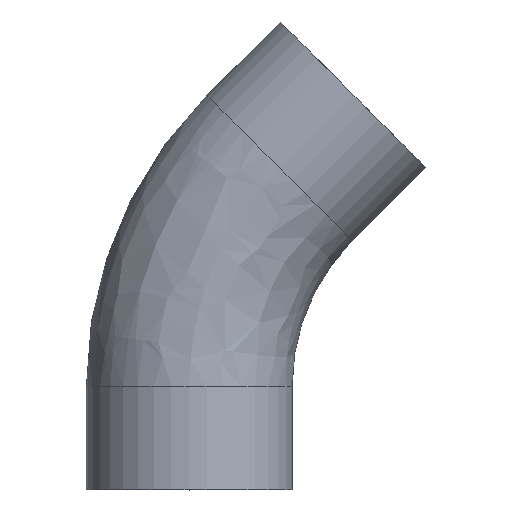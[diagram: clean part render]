
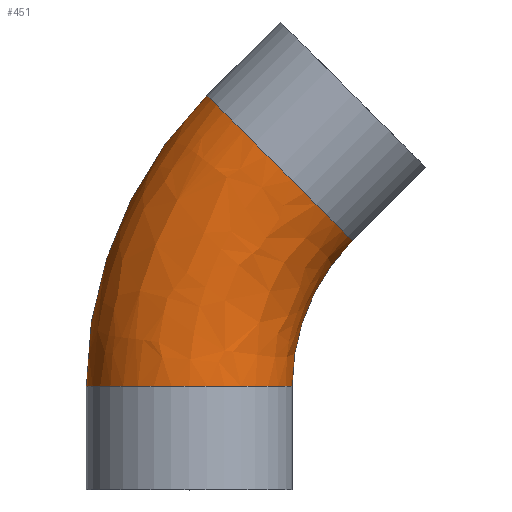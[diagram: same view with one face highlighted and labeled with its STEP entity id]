
A CAD part, top view. The second image highlights one B-rep face of the part: STEP entity #451.
In plain terms, the highlighted free-form (B-spline) face has degree [3, 3] with [4, 4] control points.
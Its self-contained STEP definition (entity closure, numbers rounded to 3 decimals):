
#50 = ORIENTED_EDGE ( 'NONE', *, *, #112, .T. ) ;
#64 = CIRCLE ( 'NONE', #351, 101.6 ) ;
#83 = CIRCLE ( 'NONE', #215, 50.8 ) ;
#97 = CARTESIAN_POINT ( 'NONE',  ( 80.558, 123.016, 101.6 ) ) ;
#99 = DIRECTION ( 'NONE',  ( 0., 0., -1. ) ) ;
#100 = CARTESIAN_POINT ( 'NONE',  ( 61.25, 103.708, 101.6 ) ) ;
#101 = CARTESIAN_POINT ( 'NONE',  ( 50.8, 78.48, 101.6 ) ) ;
#104 = CARTESIAN_POINT ( 'NONE',  ( 152.4, 51.174, 0. ) ) ;
#110 = CARTESIAN_POINT ( 'NONE',  ( 50.8, 51.174, 101.6 ) ) ;
#112 = EDGE_CURVE ( 'NONE', #301, #404, #396, .T. ) ;
#115 = CARTESIAN_POINT ( 'NONE',  ( 8.716, 194.858, 101.6 ) ) ;
#128 = CARTESIAN_POINT ( 'NONE',  ( -29.901, 156.241, 101.6 ) ) ;
#132 = CARTESIAN_POINT ( 'NONE',  ( -50.8, 105.786, 101.6 ) ) ;
#133 = CARTESIAN_POINT ( 'NONE',  ( -50.8, 51.174, 101.6 ) ) ;
#134 = CARTESIAN_POINT ( 'NONE',  ( 8.716, 194.858, 0. ) ) ;
#138 = CARTESIAN_POINT ( 'NONE',  ( -50.8, 51.174, 0. ) ) ;
#141 = AXIS2_PLACEMENT_3D ( 'NONE', #237, #168, #161 ) ;
#142 = CARTESIAN_POINT ( 'NONE',  ( -29.901, 156.241, 0. ) ) ;
#145 = CARTESIAN_POINT ( 'NONE',  ( -50.8, 51.174, 0. ) ) ;
#160 = EDGE_LOOP ( 'NONE', ( #50, #285, #286, #181 ) ) ;
#161 = DIRECTION ( 'NONE',  ( -1., 0., 0. ) ) ;
#168 = DIRECTION ( 'NONE',  ( 0., 0., -1. ) ) ;
#178 = CARTESIAN_POINT ( 'NONE',  ( 80.558, 123.016, 0. ) ) ;
#179 = CARTESIAN_POINT ( 'NONE',  ( -50.8, 105.786, 0. ) ) ;
#181 = ORIENTED_EDGE ( 'NONE', *, *, #430, .F. ) ;
#215 = AXIS2_PLACEMENT_3D ( 'NONE', #414, #441, #438 ) ;
#222 = CARTESIAN_POINT ( 'NONE',  ( 50.8, 51.174, 0. ) ) ;
#237 = CARTESIAN_POINT ( 'NONE',  ( 152.4, 51.174, 0. ) ) ;
#248 = DIRECTION ( 'NONE',  ( 0., 1., 0. ) ) ;
#251 = DIRECTION ( 'NONE',  ( -1., 0., 0. ) ) ;
#264 = CARTESIAN_POINT ( 'NONE',  ( 61.25, 103.708, 0. ) ) ;
#285 = ORIENTED_EDGE ( 'NONE', *, *, #325, .T. ) ;
#286 = ORIENTED_EDGE ( 'NONE', *, *, #453, .T. ) ;
#287 = CARTESIAN_POINT ( 'NONE',  ( 50.8, 78.48, 0. ) ) ;
#301 = VERTEX_POINT ( 'NONE', #138 ) ;
#325 = EDGE_CURVE ( 'NONE', #404, #423, #64, .T. ) ;
#351 = AXIS2_PLACEMENT_3D ( 'NONE', #104, #99, #406 ) ;
#365 = CARTESIAN_POINT ( 'NONE',  ( 80.558, 123.016, 0. ) ) ;
#366 = CARTESIAN_POINT ( 'NONE',  ( 50.8, 51.174, 0. ) ) ;
#368 = FACE_OUTER_BOUND ( 'NONE', #160, .T. ) ;
#374 = VERTEX_POINT ( 'NONE', #405 ) ;
#392 = AXIS2_PLACEMENT_3D ( 'NONE', #448, #248, #251 ) ;
#396 = CIRCLE ( 'NONE', #392, 50.8 ) ;
#404 = VERTEX_POINT ( 'NONE', #366 ) ;
#405 = CARTESIAN_POINT ( 'NONE',  ( 8.716, 194.858, 0. ) ) ;
#406 = DIRECTION ( 'NONE',  ( -1., 0., 0. ) ) ;
#414 = CARTESIAN_POINT ( 'NONE',  ( 44.637, 158.937, 0. ) ) ;
#423 = VERTEX_POINT ( 'NONE', #178 ) ;
#425 =( BOUNDED_SURFACE ( )  B_SPLINE_SURFACE ( 3, 3, ( 
 ( #145, #179, #142, #134 ),
 ( #133, #132, #128, #115 ),
 ( #110, #101, #100, #97 ),
 ( #222, #287, #264, #365 ) ),
 .UNSPECIFIED., .F., .F., .F. ) 
 B_SPLINE_SURFACE_WITH_KNOTS ( ( 4, 4 ),
 ( 4, 4 ),
 ( 0., 1. ),
 ( 0., 1. ),
 .UNSPECIFIED. ) 
 GEOMETRIC_REPRESENTATION_ITEM ( )  RATIONAL_B_SPLINE_SURFACE ( (
 ( 1., 0.949, 0.949, 1.),
 ( 0.333, 0.316, 0.316, 0.333),
 ( 0.333, 0.316, 0.316, 0.333),
 ( 1., 0.949, 0.949, 1.) ) ) 
 REPRESENTATION_ITEM ( '' )  SURFACE ( )  );
#430 = EDGE_CURVE ( 'NONE', #301, #374, #464, .T. ) ;
#438 = DIRECTION ( 'NONE',  ( -0.707, 0.707, 0. ) ) ;
#441 = DIRECTION ( 'NONE',  ( -0.707, -0.707, 0. ) ) ;
#448 = CARTESIAN_POINT ( 'NONE',  ( 0., 51.174, 0. ) ) ;
#451 = ADVANCED_FACE ( 'NONE', ( #368 ), #425, .T. ) ;
#453 = EDGE_CURVE ( 'NONE', #423, #374, #83, .T. ) ;
#464 = CIRCLE ( 'NONE', #141, 203.2 ) ;
